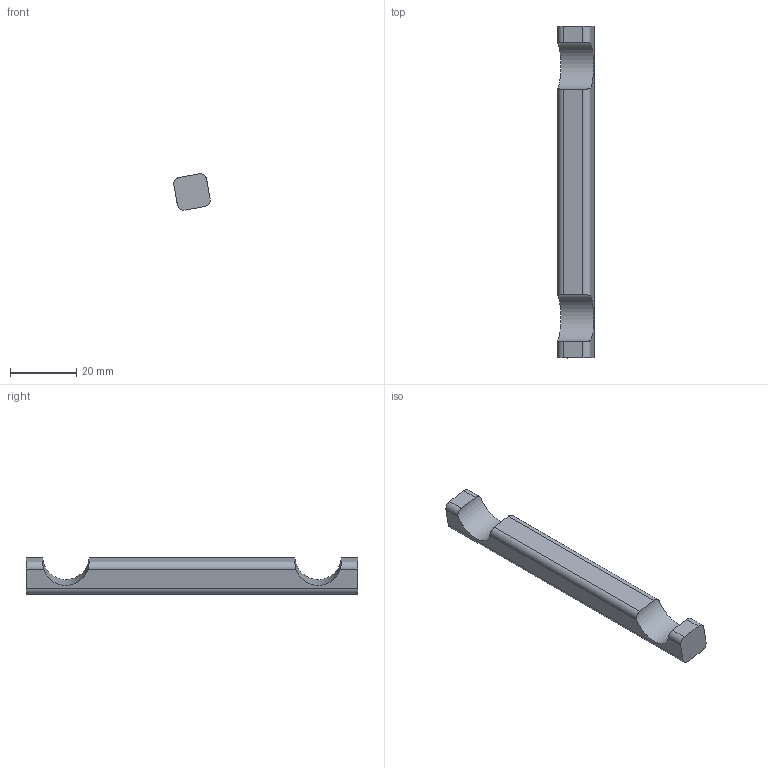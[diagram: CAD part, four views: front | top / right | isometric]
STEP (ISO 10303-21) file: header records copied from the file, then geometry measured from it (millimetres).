
FILE_DESCRIPTION(/* description */ ('STEP AP242 Edition 2','CAx-IF Rec.Pracs.---Representation and Presentation of Product Manufacturing Information (PMI)---4.0---2014-10-13','CAx-IF Rec.Pracs.---3D Tessellated Geometry---0.4---2014-09-14','2;1','CAx-IF Rec.Pracs.---User Defined Attributes---1.5---2016-08-15'),/* implementation_level */ '2;1');
FILE_NAME(/* name */ 'Assembly 1 - Part 5',/* time_stamp */ '2026-10-18T18:48:31Z',/* author */ (''),/* organization */ (''),/* preprocessor_version */ 'ST-DEVELOPER v20',/* originating_system */ 'ONSHAPE BY PTC INC, 1.222',/* authorisation */ ' ');
FILE_SCHEMA (('AP242_MANAGED_MODEL_BASED_3D_ENGINEERING_MIM_LF { 1 0 10303 442 3 1 4 }'));
Length unit declared in the file: metre
Products named in the file (1): Part 5
Bounding box: 10.95 x 100 x 10.95 mm (x, y, z)
Volume: 8165.2 mm3; surface area: 3743 mm2
Topology: 1 solids, 1 shells, 18 faces, 48 edges, 32 vertices
Faces by surface type: cylinder 10, plane 8
Entity records: 602 total; most frequent: CARTESIAN_POINT 131, ORIENTED_EDGE 96, DIRECTION 90, EDGE_CURVE 48, VERTEX_POINT 32, AXIS2_PLACEMENT_3D 31, LINE 28, VECTOR 28
